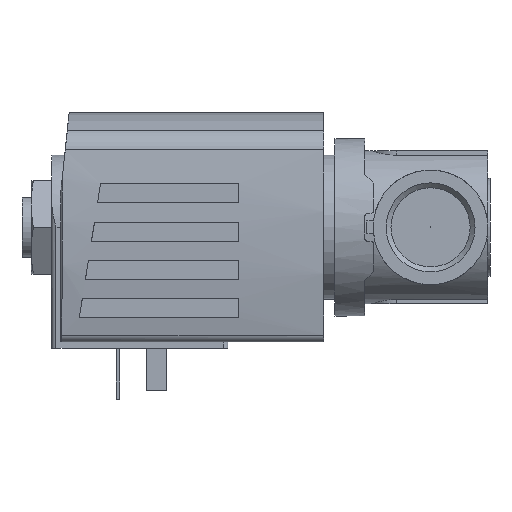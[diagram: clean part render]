
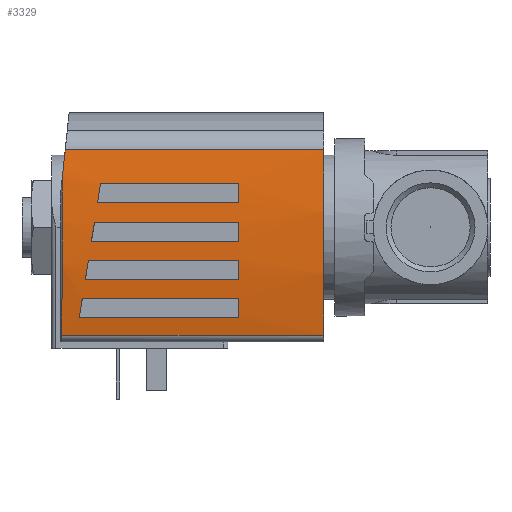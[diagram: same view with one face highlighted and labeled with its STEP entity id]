
A CAD part, left-side view. The second image highlights one B-rep face of the part: STEP entity #3329.
In plain terms, the highlighted cylindrical face has radius 130 mm (diameter 260 mm), a partial arc.
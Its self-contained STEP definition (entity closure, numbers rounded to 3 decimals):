
#50=ELLIPSE('',#3523,130.497,130.);
#51=ELLIPSE('',#3525,131.628,130.);
#52=ELLIPSE('',#3527,131.628,130.);
#53=ELLIPSE('',#3530,130.716,130.);
#54=ELLIPSE('',#3531,131.628,130.);
#55=ELLIPSE('',#3533,131.628,130.);
#110=CYLINDRICAL_SURFACE('',#3524,130.);
#155=CIRCLE('',#3526,130.);
#156=CIRCLE('',#3528,130.);
#157=CIRCLE('',#3529,130.);
#158=CIRCLE('',#3532,130.);
#159=CIRCLE('',#3534,130.);
#298=ORIENTED_EDGE('',*,*,#1052,.F.);
#299=ORIENTED_EDGE('',*,*,#1053,.F.);
#300=ORIENTED_EDGE('',*,*,#1054,.F.);
#301=ORIENTED_EDGE('',*,*,#1055,.F.);
#302=ORIENTED_EDGE('',*,*,#1056,.F.);
#303=ORIENTED_EDGE('',*,*,#1057,.F.);
#304=ORIENTED_EDGE('',*,*,#1058,.F.);
#305=ORIENTED_EDGE('',*,*,#1059,.F.);
#306=ORIENTED_EDGE('',*,*,#1050,.F.);
#307=ORIENTED_EDGE('',*,*,#1043,.T.);
#308=ORIENTED_EDGE('',*,*,#1060,.T.);
#309=ORIENTED_EDGE('',*,*,#1061,.F.);
#310=ORIENTED_EDGE('',*,*,#1062,.F.);
#311=ORIENTED_EDGE('',*,*,#1063,.F.);
#312=ORIENTED_EDGE('',*,*,#1064,.F.);
#313=ORIENTED_EDGE('',*,*,#1065,.F.);
#314=ORIENTED_EDGE('',*,*,#1066,.F.);
#315=ORIENTED_EDGE('',*,*,#1067,.F.);
#316=ORIENTED_EDGE('',*,*,#1068,.F.);
#317=ORIENTED_EDGE('',*,*,#1069,.F.);
#318=ORIENTED_EDGE('',*,*,#1070,.F.);
#1043=EDGE_CURVE('',#1421,#1420,#1674,.T.);
#1050=EDGE_CURVE('',#1421,#1426,#50,.T.);
#1052=EDGE_CURVE('',#1427,#1428,#51,.T.);
#1053=EDGE_CURVE('',#1429,#1427,#1678,.F.);
#1054=EDGE_CURVE('',#1430,#1429,#155,.T.);
#1055=EDGE_CURVE('',#1428,#1430,#1679,.T.);
#1056=EDGE_CURVE('',#1431,#1432,#1680,.T.);
#1057=EDGE_CURVE('',#1433,#1431,#52,.T.);
#1058=EDGE_CURVE('',#1434,#1433,#1681,.F.);
#1059=EDGE_CURVE('',#1432,#1434,#156,.T.);
#1060=EDGE_CURVE('',#1420,#1435,#157,.T.);
#1061=EDGE_CURVE('',#1436,#1435,#1682,.T.);
#1062=EDGE_CURVE('',#1426,#1436,#53,.T.);
#1063=EDGE_CURVE('',#1437,#1438,#54,.T.);
#1064=EDGE_CURVE('',#1439,#1437,#1683,.F.);
#1065=EDGE_CURVE('',#1440,#1439,#158,.T.);
#1066=EDGE_CURVE('',#1438,#1440,#1684,.T.);
#1067=EDGE_CURVE('',#1441,#1442,#55,.T.);
#1068=EDGE_CURVE('',#1443,#1441,#1685,.F.);
#1069=EDGE_CURVE('',#1444,#1443,#159,.T.);
#1070=EDGE_CURVE('',#1442,#1444,#1686,.T.);
#1420=VERTEX_POINT('',#4715);
#1421=VERTEX_POINT('',#4717);
#1426=VERTEX_POINT('',#4731);
#1427=VERTEX_POINT('',#4735);
#1428=VERTEX_POINT('',#4736);
#1429=VERTEX_POINT('',#4738);
#1430=VERTEX_POINT('',#4740);
#1431=VERTEX_POINT('',#4743);
#1432=VERTEX_POINT('',#4744);
#1433=VERTEX_POINT('',#4746);
#1434=VERTEX_POINT('',#4748);
#1435=VERTEX_POINT('',#4751);
#1436=VERTEX_POINT('',#4753);
#1437=VERTEX_POINT('',#4756);
#1438=VERTEX_POINT('',#4757);
#1439=VERTEX_POINT('',#4759);
#1440=VERTEX_POINT('',#4761);
#1441=VERTEX_POINT('',#4764);
#1442=VERTEX_POINT('',#4765);
#1443=VERTEX_POINT('',#4767);
#1444=VERTEX_POINT('',#4769);
#1674=LINE('',#4716,#1899);
#1678=LINE('',#4737,#1903);
#1679=LINE('',#4741,#1904);
#1680=LINE('',#4742,#1905);
#1681=LINE('',#4747,#1906);
#1682=LINE('',#4752,#1907);
#1683=LINE('',#4758,#1908);
#1684=LINE('',#4762,#1909);
#1685=LINE('',#4766,#1910);
#1686=LINE('',#4770,#1911);
#1899=VECTOR('',#3862,1000.);
#1903=VECTOR('',#3884,1000.);
#1904=VECTOR('',#3887,1000.);
#1905=VECTOR('',#3888,1000.);
#1906=VECTOR('',#3891,1000.);
#1907=VECTOR('',#3896,1000.);
#1908=VECTOR('',#3901,1000.);
#1909=VECTOR('',#3904,1000.);
#1910=VECTOR('',#3907,1000.);
#1911=VECTOR('',#3910,1000.);
#2103=EDGE_LOOP('',(#298,#299,#300,#301));
#2104=EDGE_LOOP('',(#302,#303,#304,#305));
#2105=EDGE_LOOP('',(#306,#307,#308,#309,#310));
#2106=EDGE_LOOP('',(#311,#312,#313,#314));
#2107=EDGE_LOOP('',(#315,#316,#317,#318));
#2321=FACE_BOUND('',#2103,.T.);
#2322=FACE_BOUND('',#2104,.T.);
#2323=FACE_BOUND('',#2105,.T.);
#2324=FACE_BOUND('',#2106,.T.);
#2325=FACE_BOUND('',#2107,.T.);
#3329=ADVANCED_FACE('',(#2321,#2322,#2323,#2324,#2325),#110,.T.);
#3523=AXIS2_PLACEMENT_3D('',#4730,#3877,#3878);
#3524=AXIS2_PLACEMENT_3D('',#4733,#3880,#3881);
#3525=AXIS2_PLACEMENT_3D('',#4734,#3882,#3883);
#3526=AXIS2_PLACEMENT_3D('',#4739,#3885,#3886);
#3527=AXIS2_PLACEMENT_3D('',#4745,#3889,#3890);
#3528=AXIS2_PLACEMENT_3D('',#4749,#3892,#3893);
#3529=AXIS2_PLACEMENT_3D('',#4750,#3894,#3895);
#3530=AXIS2_PLACEMENT_3D('',#4754,#3897,#3898);
#3531=AXIS2_PLACEMENT_3D('',#4755,#3899,#3900);
#3532=AXIS2_PLACEMENT_3D('',#4760,#3902,#3903);
#3533=AXIS2_PLACEMENT_3D('',#4763,#3905,#3906);
#3534=AXIS2_PLACEMENT_3D('',#4768,#3908,#3909);
#3862=DIRECTION('',(0.,-1.,0.));
#3877=DIRECTION('',(0.,0.996,0.087));
#3878=DIRECTION('',(0.,-0.087,0.996));
#3880=DIRECTION('',(0.,-1.,0.));
#3881=DIRECTION('',(0.,0.,-1.));
#3882=DIRECTION('',(-0.157,-0.988,0.));
#3883=DIRECTION('',(0.988,-0.157,0.));
#3884=DIRECTION('',(0.,-1.,0.));
#3885=DIRECTION('',(0.,1.,0.));
#3886=DIRECTION('',(0.,0.,1.));
#3887=DIRECTION('',(0.,-1.,0.));
#3888=DIRECTION('',(0.,-1.,0.));
#3889=DIRECTION('',(-0.157,-0.988,0.));
#3890=DIRECTION('',(0.988,-0.157,0.));
#3891=DIRECTION('',(0.,-1.,0.));
#3892=DIRECTION('',(0.,1.,0.));
#3893=DIRECTION('',(0.,0.,1.));
#3894=DIRECTION('',(0.,1.,0.));
#3895=DIRECTION('',(1.,0.,0.));
#3896=DIRECTION('',(0.,-1.,0.));
#3897=DIRECTION('',(0.105,0.995,0.));
#3898=DIRECTION('',(0.995,-0.105,0.));
#3899=DIRECTION('',(-0.157,-0.988,0.));
#3900=DIRECTION('',(0.988,-0.157,0.));
#3901=DIRECTION('',(0.,-1.,0.));
#3902=DIRECTION('',(0.,1.,0.));
#3903=DIRECTION('',(0.,0.,1.));
#3904=DIRECTION('',(0.,-1.,0.));
#3905=DIRECTION('',(-0.157,-0.988,0.));
#3906=DIRECTION('',(0.988,-0.157,0.));
#3907=DIRECTION('',(0.,-1.,0.));
#3908=DIRECTION('',(0.,1.,0.));
#3909=DIRECTION('',(0.,0.,1.));
#3910=DIRECTION('',(0.,-1.,0.));
#4715=CARTESIAN_POINT('',(-25.391,-39.4,18.646));
#4716=CARTESIAN_POINT('',(-25.391,22.6,18.646));
#4717=CARTESIAN_POINT('',(-25.391,22.281,18.646));
#4730=CARTESIAN_POINT('',(0.,33.435,-108.85));
#4731=CARTESIAN_POINT('',(11.681,22.108,20.624));
#4733=CARTESIAN_POINT('',(0.,22.6,-108.85));
#4734=CARTESIAN_POINT('',(0.,14.727,-108.85));
#4735=CARTESIAN_POINT('',(1.25,14.529,21.144));
#4736=CARTESIAN_POINT('',(-3.25,15.243,21.109));
#4737=CARTESIAN_POINT('',(1.25,22.6,21.144));
#4738=CARTESIAN_POINT('',(1.25,-19.4,21.144));
#4739=CARTESIAN_POINT('',(0.,-19.4,-108.85));
#4740=CARTESIAN_POINT('',(-3.25,-19.4,21.109));
#4741=CARTESIAN_POINT('',(-3.25,22.6,21.109));
#4742=CARTESIAN_POINT('',(-21.25,22.6,19.401));
#4743=CARTESIAN_POINT('',(-21.25,18.1,19.401));
#4744=CARTESIAN_POINT('',(-21.25,-19.4,19.401));
#4745=CARTESIAN_POINT('',(0.,14.727,-108.85));
#4746=CARTESIAN_POINT('',(-16.75,17.386,20.066));
#4747=CARTESIAN_POINT('',(-16.75,22.6,20.066));
#4748=CARTESIAN_POINT('',(-16.75,-19.4,20.066));
#4749=CARTESIAN_POINT('',(0.,-19.4,-108.85));
#4750=CARTESIAN_POINT('',(0.,-39.4,-108.85));
#4751=CARTESIAN_POINT('',(18.286,-39.4,19.857));
#4752=CARTESIAN_POINT('',(18.286,22.6,19.857));
#4753=CARTESIAN_POINT('',(18.286,21.414,19.857));
#4754=CARTESIAN_POINT('',(0.,23.336,-108.85));
#4755=CARTESIAN_POINT('',(0.,14.727,-108.85));
#4756=CARTESIAN_POINT('',(-7.75,15.957,20.919));
#4757=CARTESIAN_POINT('',(-12.25,16.671,20.572));
#4758=CARTESIAN_POINT('',(-7.75,22.6,20.919));
#4759=CARTESIAN_POINT('',(-7.75,-19.4,20.919));
#4760=CARTESIAN_POINT('',(0.,-19.4,-108.85));
#4761=CARTESIAN_POINT('',(-12.25,-19.4,20.572));
#4762=CARTESIAN_POINT('',(-12.25,22.6,20.572));
#4763=CARTESIAN_POINT('',(0.,14.727,-108.85));
#4764=CARTESIAN_POINT('',(10.25,13.1,20.745));
#4765=CARTESIAN_POINT('',(5.75,13.814,21.023));
#4766=CARTESIAN_POINT('',(10.25,22.6,20.745));
#4767=CARTESIAN_POINT('',(10.25,-19.4,20.745));
#4768=CARTESIAN_POINT('',(0.,-19.4,-108.85));
#4769=CARTESIAN_POINT('',(5.75,-19.4,21.023));
#4770=CARTESIAN_POINT('',(5.75,22.6,21.023));
